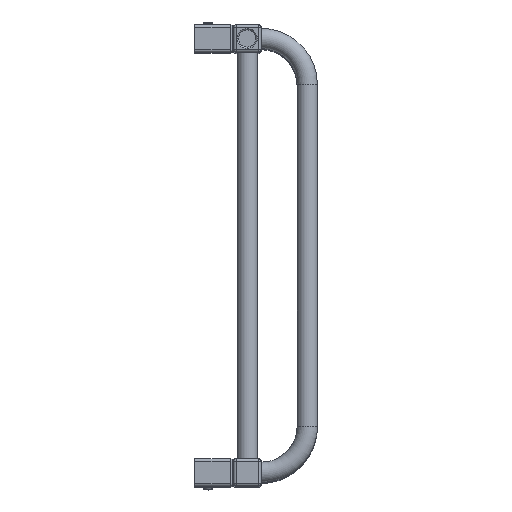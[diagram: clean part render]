
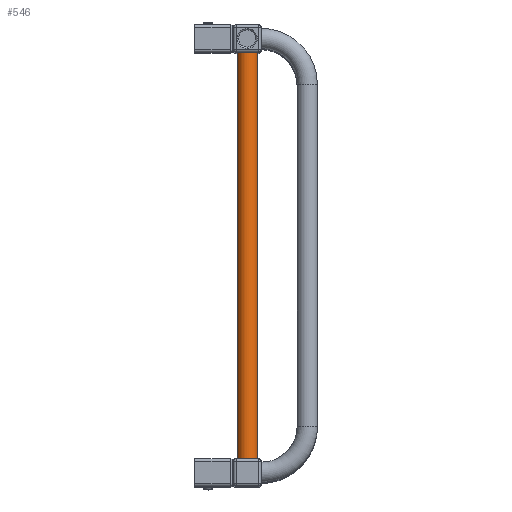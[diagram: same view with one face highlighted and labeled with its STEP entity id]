
A CAD part, top view. The second image highlights one B-rep face of the part: STEP entity #546.
In plain terms, the highlighted cylindrical face has radius 11 mm (diameter 22 mm), a full revolution.
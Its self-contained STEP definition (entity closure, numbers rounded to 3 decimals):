
#519=CARTESIAN_POINT('',(0.0,-220.0,590.));
#520=DIRECTION('',(0.0,1.0,0.0));
#521=DIRECTION('',(-1.0,0.0,0.0));
#522=AXIS2_PLACEMENT_3D('',#519,#520,#521);
#523=CYLINDRICAL_SURFACE('',#522,11.);
#524=CARTESIAN_POINT('',(11.,-220.0,590.));
#525=VERTEX_POINT('',#524);
#526=CARTESIAN_POINT('',(0.0,-220.0,590.));
#527=DIRECTION('',(0.0,-1.0,0.0));
#528=DIRECTION('',(-1.0,0.0,0.0));
#529=AXIS2_PLACEMENT_3D('',#526,#527,#528);
#530=CIRCLE('',#529,11.);
#531=EDGE_CURVE('',#525,#525,#530,.T.);
#532=ORIENTED_EDGE('',*,*,#531,.F.);
#533=EDGE_LOOP('',(#532));
#534=FACE_OUTER_BOUND('',#533,.T.);
#535=CARTESIAN_POINT('',(11.,220.0,590.));
#536=VERTEX_POINT('',#535);
#537=CARTESIAN_POINT('',(0.0,220.0,590.));
#538=DIRECTION('',(0.0,1.0,0.0));
#539=DIRECTION('',(-1.0,0.0,0.0));
#540=AXIS2_PLACEMENT_3D('',#537,#538,#539);
#541=CIRCLE('',#540,11.);
#542=EDGE_CURVE('',#536,#536,#541,.T.);
#543=ORIENTED_EDGE('',*,*,#542,.F.);
#544=EDGE_LOOP('',(#543));
#545=FACE_BOUND('',#544,.T.);
#546=ADVANCED_FACE('',(#534,#545),#523,.T.);
